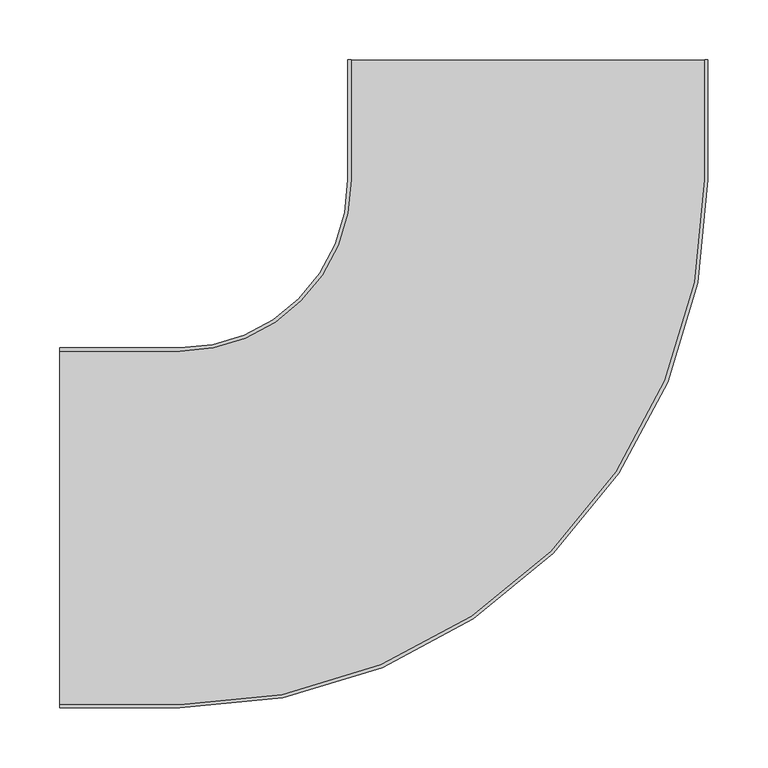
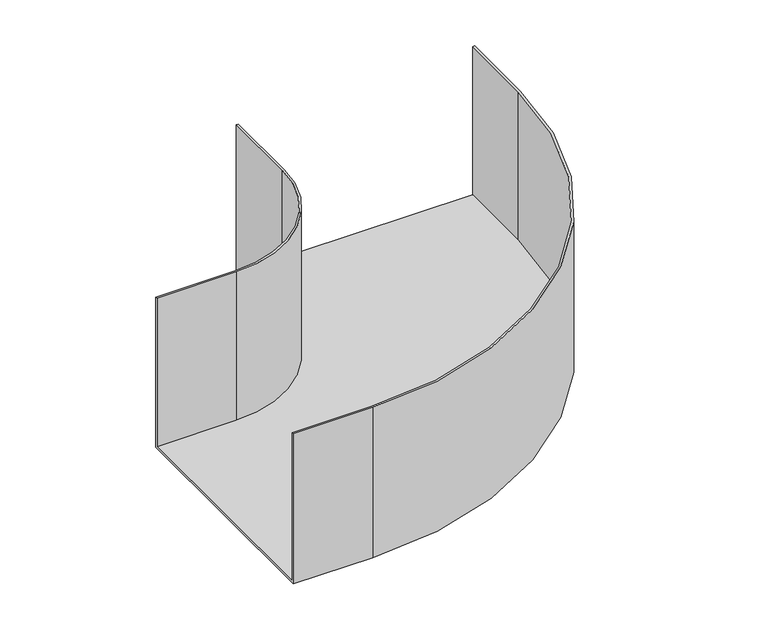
"""IFC4 building model written with IfcOpenShell, lengths in millimetres: cable carrier fitting geometry, BAKS_Elbow_KKZ : KKZC/KKZMC...H200."""

from ifc_helpers import new_model, si_unit, frame, origin, place, context, project, spatial, polyline, circle_curve, source, transform, mapped, element, save
from ifc_brep_helpers import plane_surface, cylinder_surface, revolved_surface, advanced_brep


def cable_carrier_fitting_eaf42c59(model_context):
    return source(origin(), model_context, "Body", "AdvancedBrep", [
        advanced_brep(
        [(-390.0, -150.0, -100.0), (-390.0, -150.0, 100.0), (-390.0, -147.46, 100.0), (-390.0, -147.46, -97.46), (-390.0, 147.46, -97.46), (-390.0, 147.46, 100.0), (-390.0, 150.0, 100.0), (-390.0, 150.0, -100.0), (150.0, 390.0, -100.0), (-150.0, 390.0, -100.0), (-150.0, 390.0, 100.0), (-147.46, 390.0, 100.0), (-147.46, 390.0, -97.46), (147.46, 390.0, -97.46), (147.46, 390.0, 100.0), (150.0, 390.0, 100.0), (-290.0, -150.0, -100.0), (-290.0, -150.0, 100.0), (150.0, 290.0, 100.0), (147.46, 290.0, 100.0), (-290.0, -147.46, 100.0), (-290.0, -147.46, -97.46), (147.46, 290.0, -97.46), (-147.46, 290.0, -97.46), (-290.0, 147.46, -97.46), (-290.0, 147.46, 100.0), (-147.46, 290.0, 100.0), (-150.0, 290.0, 100.0), (-290.0, 150.0, 100.0), (-290.0, 150.0, -100.0), (-150.0, 290.0, -100.0), (150.0, 290.0, -100.0)],
        [
            (0, 1),
            (1, 2),
            (2, 3),
            (3, 4),
            (4, 5),
            (5, 6),
            (6, 7),
            (7, 0),
            (8, 9),
            (9, 10),
            (10, 11),
            (11, 12),
            (12, 13),
            (13, 14),
            (14, 15),
            (15, 8),
            (0, 16),
            (16, 17),
            (17, 1),
            (17, 18, circle_curve(frame((-290.0, 290.0, 100.0), z_axis=(0.0, 0.0, 1.0), x_axis=(0.0, -1.0, 0.0)), 440.0)),
            (18, 15),
            (14, 19),
            (19, 20, circle_curve(frame((-290.0, 290.0, 100.0), z_axis=(0.0, 0.0, -1.0), x_axis=(0.0, -1.0, 0.0)), 437.46)),
            (20, 2),
            (20, 21),
            (21, 3),
            (21, 22, circle_curve(frame((-290.0, 290.0, -97.46), z_axis=(0.0, 0.0, 1.0), x_axis=(0.0, -1.0, 0.0)), 437.46)),
            (22, 13),
            (12, 23),
            (23, 24, circle_curve(frame((-290.0, 290.0, -97.46), z_axis=(0.0, 0.0, -1.0), x_axis=(0.0, -1.0, 0.0)), 142.54)),
            (24, 4),
            (24, 25),
            (25, 5),
            (25, 26, circle_curve(frame((-290.0, 290.0, 100.0), z_axis=(0.0, 0.0, 1.0), x_axis=(0.0, -1.0, 0.0)), 142.54)),
            (26, 11),
            (10, 27),
            (27, 28, circle_curve(frame((-290.0, 290.0, 100.0), z_axis=(0.0, 0.0, -1.0), x_axis=(0.0, -1.0, 0.0)), 140.0)),
            (28, 6),
            (28, 29),
            (29, 7),
            (29, 30, circle_curve(frame((-290.0, 290.0, -100.0), z_axis=(0.0, 0.0, 1.0), x_axis=(0.0, -1.0, 0.0)), 140.0)),
            (30, 9),
            (8, 31),
            (31, 16, circle_curve(frame((-290.0, 290.0, -100.0), z_axis=(0.0, 0.0, -1.0), x_axis=(0.0, -1.0, 0.0)), 440.0)),
            (31, 18),
            (19, 22),
            (23, 26),
            (27, 30),
        ],
        [
            plane_surface(frame((-390.0, 0.0, 0.0), z_axis=(-1.0, 0.0, 0.0), x_axis=(0.0, 0.0, 1.0))),
            plane_surface(frame((0.0, 390.0, 0.0), z_axis=(0.0, 1.0, 0.0), x_axis=(0.0, 0.0, 1.0))),
            plane_surface(frame((-390.0, -150.0, -100.0), z_axis=(0.0, -1.0, 0.0), x_axis=(1.0, 0.0, 0.0))),
            plane_surface(frame((-390.0, -150.0, 100.0), z_axis=(0.0, 0.0, 1.0), x_axis=(1.0, 0.0, 0.0))),
            plane_surface(frame((-390.0, -147.46, 100.0), z_axis=(0.0, 1.0, 0.0), x_axis=(1.0, 0.0, 0.0))),
            plane_surface(frame((-390.0, -147.46, -97.46), z_axis=(0.0, 0.0, 1.0), x_axis=(1.0, 0.0, 0.0))),
            plane_surface(frame((-390.0, 147.46, -97.46), z_axis=(0.0, -1.0, 0.0), x_axis=(1.0, 0.0, 0.0))),
            plane_surface(frame((-390.0, 147.46, 100.0), z_axis=(0.0, 0.0, 1.0), x_axis=(1.0, 0.0, 0.0))),
            plane_surface(frame((-390.0, 150.0, 100.0), z_axis=(0.0, 1.0, 0.0), x_axis=(1.0, 0.0, 0.0))),
            plane_surface(frame((-390.0, 150.0, -100.0), z_axis=(0.0, 0.0, -1.0), x_axis=(1.0, 0.0, 0.0))),
            cylinder_surface(frame((-290.0, 290.0, 0.0), z_axis=(0.0, 0.0, 1.0), x_axis=(0.0, -1.0, 0.0)), 440.0),
            revolved_surface(polyline([(-290.0, -147.45999999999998, 100.0), (-290.0, -147.45999999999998, -97.46)]), (-290.0, 290.0, 0.0), (0.0, 0.0, 1.0)),
            cylinder_surface(frame((-290.0, 290.0, 0.0), z_axis=(0.0, 0.0, 1.0), x_axis=(0.0, -1.0, 0.0)), 142.54),
            revolved_surface(polyline([(-290.0, 150.0, 100.0), (-290.0, 150.0, -100.0)]), (-290.0, 290.0, 0.0), (0.0, 0.0, 1.0)),
            plane_surface(frame((150.0, 290.0, -100.0), z_axis=(1.0, 0.0, 0.0), x_axis=(0.0, 1.0, 0.0))),
            plane_surface(frame((147.46, 290.0, 100.0), z_axis=(-1.0, 0.0, 0.0), x_axis=(0.0, 1.0, 0.0))),
            plane_surface(frame((-147.46, 290.0, -97.46), z_axis=(1.0, 0.0, 0.0), x_axis=(0.0, 1.0, 0.0))),
            plane_surface(frame((-150.0, 290.0, 100.0), z_axis=(-1.0, 0.0, 0.0), x_axis=(0.0, 1.0, 0.0))),
        ],
        [
            (0, [[1, 2, 3, 4, 5, 6, 7, 8]]),
            (1, [[9, 10, 11, 12, 13, 14, 15, 16]]),
            (2, [[-1, 17, 18, 19]]),
            (3, [[-2, -19, 20, 21, -15, 22, 23, 24]]),
            (4, [[-3, -24, 25, 26]]),
            (5, [[-4, -26, 27, 28, -13, 29, 30, 31]]),
            (6, [[-5, -31, 32, 33]]),
            (7, [[-6, -33, 34, 35, -11, 36, 37, 38]]),
            (8, [[-7, -38, 39, 40]]),
            (9, [[-8, -40, 41, 42, -9, 43, 44, -17]]),
            (10, [[-20, -18, -44, 45]]),
            (11, [[-27, -25, -23, 46]]),
            (12, [[-34, -32, -30, 47]]),
            (13, [[-41, -39, -37, 48]]),
            (14, [[-45, -43, -16, -21]]),
            (15, [[-46, -22, -14, -28]]),
            (16, [[-47, -29, -12, -35]]),
            (17, [[-48, -36, -10, -42]]),
        ],
    ),
    ])


if __name__ == "__main__":
    model = new_model("IFC4")
    model_context = context("Model", 3, world=origin())
    ifc_project = project(units=[si_unit("LENGTHUNIT", "METRE", prefix="MILLI")], contexts=[model_context])
    site = spatial("IfcSite", under=ifc_project)
    building = spatial("IfcBuilding", under=site)
    placement = place(None, origin())
    cable_carrier_fitting_shape = cable_carrier_fitting_eaf42c59(model_context)
    element("IfcCableCarrierFitting", 1, ObjectType="BAKS_Elbow_KKZ : KKZC/KKZMC...H200", at=placement, inside=building, context=model_context, shape_type="MappedRepresentation", body=[
        mapped(cable_carrier_fitting_shape, transform((0.0, 0.0, 0.0), x_axis=(1.0, 0.0, 0.0), y_axis=(0.0, 1.0, 0.0), z_axis=(0.0, 0.0, 1.0))),
    ])
    save(model, "model.ifc")
